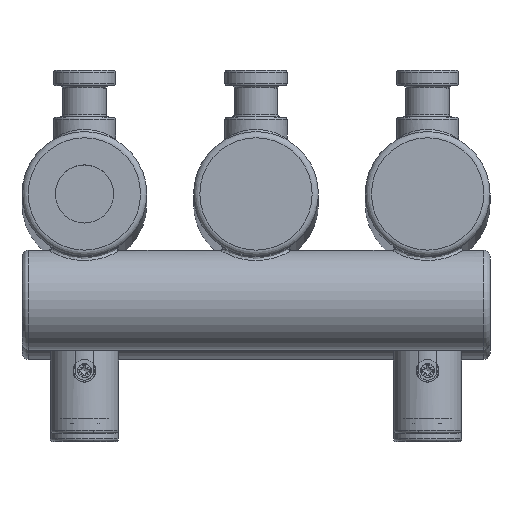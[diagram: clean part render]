
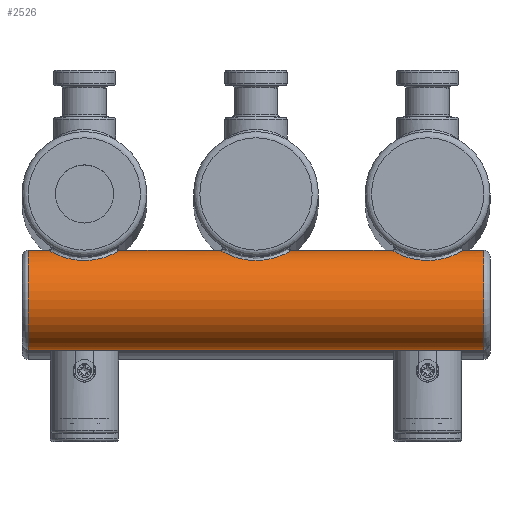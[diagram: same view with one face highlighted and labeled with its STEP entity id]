
A CAD part, top view. The second image highlights one B-rep face of the part: STEP entity #2526.
In plain terms, the highlighted cylindrical face has radius 16 mm (diameter 32 mm), a full revolution.
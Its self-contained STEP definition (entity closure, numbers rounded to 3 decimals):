
#191=FACE_BOUND('',#607,.T.);
#192=FACE_BOUND('',#608,.T.);
#193=FACE_BOUND('',#609,.T.);
#219=LINE('',#5072,#304);
#304=VECTOR('',#3160,16.);
#389=CYLINDRICAL_SURFACE('',#2743,16.);
#432=FACE_OUTER_BOUND('',#606,.T.);
#606=EDGE_LOOP('',(#1776,#1777,#1778,#1779));
#607=EDGE_LOOP('',(#1780));
#608=EDGE_LOOP('',(#1781));
#609=EDGE_LOOP('',(#1782));
#796=B_SPLINE_CURVE_WITH_KNOTS('',3,(#5043,#5044,#5045,#5046,#5047,#5048,
#5049,#5050,#5051,#5052,#5053,#5054,#5055,#5056,#5057,#5058,#5059,#5060,
#5061,#5062,#5063,#5064,#5065,#5066,#5067),.UNSPECIFIED.,.T.,.F.,(4,1,1,
1,1,1,1,1,1,1,1,1,1,1,1,1,1,1,1,1,1,1,4),(0.,0.367,0.733,
0.756,0.779,0.825,0.916,
1.1,1.466,1.955,2.199,2.322,
2.444,2.688,2.933,3.177,3.421,
3.666,3.91,4.154,4.399,4.765,
5.132),.UNSPECIFIED.);
#797=B_SPLINE_CURVE_WITH_KNOTS('',3,(#5075,#5076,#5077,#5078,#5079,#5080,
#5081,#5082,#5083,#5084,#5085,#5086,#5087,#5088,#5089,#5090,#5091,#5092,
#5093,#5094,#5095,#5096,#5097,#5098,#5099),.UNSPECIFIED.,.T.,.F.,(4,1,1,
1,1,1,1,1,1,1,1,1,1,1,1,1,1,1,1,1,1,1,4),(0.,0.367,0.733,
0.756,0.779,0.825,0.916,
1.1,1.466,1.955,2.199,2.322,
2.444,2.688,2.933,3.177,3.421,
3.666,3.91,4.154,4.399,4.765,
5.132),.UNSPECIFIED.);
#798=B_SPLINE_CURVE_WITH_KNOTS('',3,(#5101,#5102,#5103,#5104,#5105,#5106,
#5107,#5108,#5109,#5110,#5111,#5112,#5113,#5114,#5115,#5116,#5117,#5118,
#5119,#5120,#5121,#5122,#5123,#5124,#5125),.UNSPECIFIED.,.T.,.F.,(4,1,1,
1,1,1,1,1,1,1,1,1,1,1,1,1,1,1,1,1,1,1,4),(0.,0.367,0.733,
1.1,1.283,1.466,1.711,1.955,
2.077,2.199,2.444,2.933,3.177,
3.421,3.666,3.788,3.91,4.154,
4.277,4.399,4.582,4.765,5.132),
 .UNSPECIFIED.);
#853=CIRCLE('',#2744,16.);
#854=CIRCLE('',#2745,16.);
#1088=VERTEX_POINT('',#5041);
#1089=VERTEX_POINT('',#5069);
#1090=VERTEX_POINT('',#5071);
#1091=VERTEX_POINT('',#5074);
#1092=VERTEX_POINT('',#5100);
#1368=EDGE_CURVE('',#1088,#1088,#796,.T.);
#1369=EDGE_CURVE('',#1089,#1089,#853,.T.);
#1370=EDGE_CURVE('',#1089,#1090,#219,.T.);
#1371=EDGE_CURVE('',#1090,#1090,#854,.T.);
#1372=EDGE_CURVE('',#1091,#1091,#797,.T.);
#1373=EDGE_CURVE('',#1092,#1092,#798,.T.);
#1776=ORIENTED_EDGE('',*,*,#1369,.F.);
#1777=ORIENTED_EDGE('',*,*,#1370,.T.);
#1778=ORIENTED_EDGE('',*,*,#1371,.F.);
#1779=ORIENTED_EDGE('',*,*,#1370,.F.);
#1780=ORIENTED_EDGE('',*,*,#1372,.F.);
#1781=ORIENTED_EDGE('',*,*,#1373,.F.);
#1782=ORIENTED_EDGE('',*,*,#1368,.F.);
#2526=ADVANCED_FACE('',(#432,#191,#192,#193),#389,.T.);
#2743=AXIS2_PLACEMENT_3D('',#5068,#3156,#3157);
#2744=AXIS2_PLACEMENT_3D('',#5070,#3158,#3159);
#2745=AXIS2_PLACEMENT_3D('',#5073,#3161,#3162);
#3156=DIRECTION('center_axis',(-1.,0.,0.));
#3157=DIRECTION('ref_axis',(0.,0.,1.));
#3158=DIRECTION('center_axis',(-1.,0.,0.));
#3159=DIRECTION('ref_axis',(0.,0.,1.));
#3160=DIRECTION('',(1.,0.,0.));
#3161=DIRECTION('center_axis',(1.,0.,0.));
#3162=DIRECTION('ref_axis',(0.,0.,1.));
#5041=CARTESIAN_POINT('',(-110.,-21.257,1769.676));
#5043=CARTESIAN_POINT('Ctrl Pts',(-110.,-21.257,1769.676));
#5044=CARTESIAN_POINT('Ctrl Pts',(-108.333,-21.257,1769.676));
#5045=CARTESIAN_POINT('Ctrl Pts',(-104.993,-20.856,1769.184));
#5046=CARTESIAN_POINT('Ctrl Pts',(-102.133,-19.807,1767.498));
#5047=CARTESIAN_POINT('Ctrl Pts',(-100.941,-19.258,1766.223));
#5048=CARTESIAN_POINT('Ctrl Pts',(-100.686,-19.137,1765.931));
#5049=CARTESIAN_POINT('Ctrl Pts',(-100.266,-18.931,1765.398));
#5050=CARTESIAN_POINT('Ctrl Pts',(-99.533,-18.546,1764.247));
#5051=CARTESIAN_POINT('Ctrl Pts',(-98.543,-17.949,1761.665));
#5052=CARTESIAN_POINT('Ctrl Pts',(-98.519,-17.942,1756.937));
#5053=CARTESIAN_POINT('Ctrl Pts',(-101.228,-19.553,1752.87));
#5054=CARTESIAN_POINT('Ctrl Pts',(-104.596,-20.618,1751.22));
#5055=CARTESIAN_POINT('Ctrl Pts',(-106.694,-21.024,1750.635));
#5056=CARTESIAN_POINT('Ctrl Pts',(-108.879,-21.279,1750.296));
#5057=CARTESIAN_POINT('Ctrl Pts',(-111.681,-21.278,1750.295));
#5058=CARTESIAN_POINT('Ctrl Pts',(-114.928,-20.769,1750.977));
#5059=CARTESIAN_POINT('Ctrl Pts',(-117.797,-19.861,1752.415));
#5060=CARTESIAN_POINT('Ctrl Pts',(-119.987,-18.831,1754.662));
#5061=CARTESIAN_POINT('Ctrl Pts',(-121.25,-18.078,1757.581));
#5062=CARTESIAN_POINT('Ctrl Pts',(-121.504,-17.911,1760.817));
#5063=CARTESIAN_POINT('Ctrl Pts',(-120.743,-18.396,1763.943));
#5064=CARTESIAN_POINT('Ctrl Pts',(-118.706,-19.497,1767.001));
#5065=CARTESIAN_POINT('Ctrl Pts',(-115.007,-20.859,1769.186));
#5066=CARTESIAN_POINT('Ctrl Pts',(-111.667,-21.257,1769.676));
#5067=CARTESIAN_POINT('Ctrl Pts',(-110.,-21.257,1769.676));
#5068=CARTESIAN_POINT('Origin',(20.,-34.,1760.));
#5069=CARTESIAN_POINT('',(-128.,-34.,1744.));
#5070=CARTESIAN_POINT('Origin',(-128.,-34.,1760.));
#5071=CARTESIAN_POINT('',(18.,-34.,1744.));
#5072=CARTESIAN_POINT('',(20.,-34.,1744.));
#5073=CARTESIAN_POINT('Origin',(18.,-34.,1760.));
#5074=CARTESIAN_POINT('',(-55.,-21.257,1769.676));
#5075=CARTESIAN_POINT('Ctrl Pts',(-55.,-21.257,1769.676));
#5076=CARTESIAN_POINT('Ctrl Pts',(-53.333,-21.257,1769.676));
#5077=CARTESIAN_POINT('Ctrl Pts',(-49.993,-20.856,1769.184));
#5078=CARTESIAN_POINT('Ctrl Pts',(-47.133,-19.807,1767.498));
#5079=CARTESIAN_POINT('Ctrl Pts',(-45.941,-19.258,1766.223));
#5080=CARTESIAN_POINT('Ctrl Pts',(-45.686,-19.137,1765.931));
#5081=CARTESIAN_POINT('Ctrl Pts',(-45.266,-18.931,1765.398));
#5082=CARTESIAN_POINT('Ctrl Pts',(-44.533,-18.546,1764.247));
#5083=CARTESIAN_POINT('Ctrl Pts',(-43.543,-17.949,1761.665));
#5084=CARTESIAN_POINT('Ctrl Pts',(-43.519,-17.942,1756.937));
#5085=CARTESIAN_POINT('Ctrl Pts',(-46.228,-19.553,1752.87));
#5086=CARTESIAN_POINT('Ctrl Pts',(-49.596,-20.618,1751.22));
#5087=CARTESIAN_POINT('Ctrl Pts',(-51.694,-21.024,1750.635));
#5088=CARTESIAN_POINT('Ctrl Pts',(-53.879,-21.279,1750.296));
#5089=CARTESIAN_POINT('Ctrl Pts',(-56.681,-21.278,1750.295));
#5090=CARTESIAN_POINT('Ctrl Pts',(-59.928,-20.769,1750.977));
#5091=CARTESIAN_POINT('Ctrl Pts',(-62.797,-19.861,1752.415));
#5092=CARTESIAN_POINT('Ctrl Pts',(-64.987,-18.831,1754.662));
#5093=CARTESIAN_POINT('Ctrl Pts',(-66.25,-18.078,1757.581));
#5094=CARTESIAN_POINT('Ctrl Pts',(-66.504,-17.911,1760.817));
#5095=CARTESIAN_POINT('Ctrl Pts',(-65.743,-18.396,1763.943));
#5096=CARTESIAN_POINT('Ctrl Pts',(-63.706,-19.497,1767.001));
#5097=CARTESIAN_POINT('Ctrl Pts',(-60.007,-20.859,1769.186));
#5098=CARTESIAN_POINT('Ctrl Pts',(-56.667,-21.257,1769.676));
#5099=CARTESIAN_POINT('Ctrl Pts',(-55.,-21.257,1769.676));
#5100=CARTESIAN_POINT('',(0.,-21.257,1769.676));
#5101=CARTESIAN_POINT('Ctrl Pts',(0.,-21.257,
1769.676));
#5102=CARTESIAN_POINT('Ctrl Pts',(1.667,-21.257,1769.676));
#5103=CARTESIAN_POINT('Ctrl Pts',(5.005,-20.862,1769.184));
#5104=CARTESIAN_POINT('Ctrl Pts',(9.172,-19.323,1766.732));
#5105=CARTESIAN_POINT('Ctrl Pts',(11.085,-18.177,1763.197));
#5106=CARTESIAN_POINT('Ctrl Pts',(11.461,-17.94,1759.999));
#5107=CARTESIAN_POINT('Ctrl Pts',(11.146,-18.139,1757.337));
#5108=CARTESIAN_POINT('Ctrl Pts',(9.987,-18.832,1754.662));
#5109=CARTESIAN_POINT('Ctrl Pts',(8.163,-19.688,1752.79));
#5110=CARTESIAN_POINT('Ctrl Pts',(6.363,-20.315,1751.696));
#5111=CARTESIAN_POINT('Ctrl Pts',(4.387,-20.85,1750.862));
#5112=CARTESIAN_POINT('Ctrl Pts',(0.602,-21.46,1750.076));
#5113=CARTESIAN_POINT('Ctrl Pts',(-3.97,-21.079,1750.503));
#5114=CARTESIAN_POINT('Ctrl Pts',(-7.798,-19.86,1752.413));
#5115=CARTESIAN_POINT('Ctrl Pts',(-9.986,-18.833,1754.664));
#5116=CARTESIAN_POINT('Ctrl Pts',(-11.04,-18.204,1757.095));
#5117=CARTESIAN_POINT('Ctrl Pts',(-11.377,-17.994,1759.199));
#5118=CARTESIAN_POINT('Ctrl Pts',(-11.377,-17.992,1761.337));
#5119=CARTESIAN_POINT('Ctrl Pts',(-10.869,-18.315,1763.422));
#5120=CARTESIAN_POINT('Ctrl Pts',(-9.87,-18.866,1765.253));
#5121=CARTESIAN_POINT('Ctrl Pts',(-8.73,-19.426,1766.665));
#5122=CARTESIAN_POINT('Ctrl Pts',(-7.088,-20.096,1767.962));
#5123=CARTESIAN_POINT('Ctrl Pts',(-4.172,-20.954,1769.303));
#5124=CARTESIAN_POINT('Ctrl Pts',(-1.667,-21.257,1769.676));
#5125=CARTESIAN_POINT('Ctrl Pts',(0.,-21.257,
1769.676));
